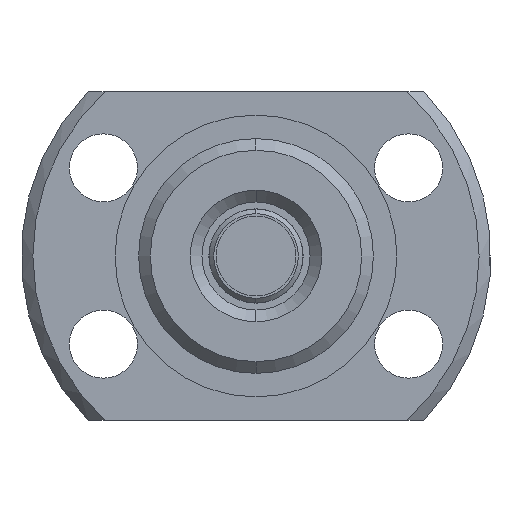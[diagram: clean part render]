
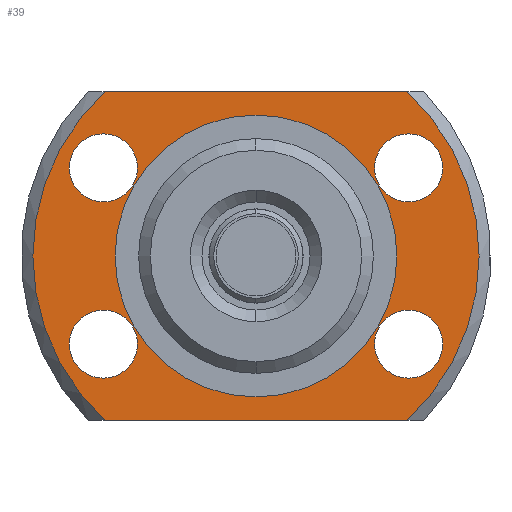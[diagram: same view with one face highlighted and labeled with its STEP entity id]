
A CAD part, left-side view. The second image highlights one B-rep face of the part: STEP entity #39.
In plain terms, the highlighted planar face has unit normal (-1, 0, 0).
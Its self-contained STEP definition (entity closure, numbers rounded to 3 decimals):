
#39 = ADVANCED_FACE ( 'NONE', ( #422, #423, #435, #433, #420, #424 ), #606, .T. ) ;
#75 = DIRECTION ( 'NONE',  ( 0., 0., -1. ) ) ;
#76 = DIRECTION ( 'NONE',  ( 1., 0., 0. ) ) ;
#78 = CARTESIAN_POINT ( 'NONE',  ( -3., 0., 0. ) ) ;
#114 = DIRECTION ( 'NONE',  ( 0., 0., 1. ) ) ;
#115 = DIRECTION ( 'NONE',  ( -1., 0., 0. ) ) ;
#116 = CARTESIAN_POINT ( 'NONE',  ( -3., 6.495, -3.75 ) ) ;
#126 = DIRECTION ( 'NONE',  ( 0., 0., 1. ) ) ;
#128 = DIRECTION ( 'NONE',  ( -1., 0., 0. ) ) ;
#129 = CARTESIAN_POINT ( 'NONE',  ( -3., 6.495, 3.75 ) ) ;
#142 = DIRECTION ( 'NONE',  ( 0., 0., 1. ) ) ;
#143 = DIRECTION ( 'NONE',  ( -1., 0., 0. ) ) ;
#144 = CARTESIAN_POINT ( 'NONE',  ( -3., -6.495, 3.75 ) ) ;
#153 = DIRECTION ( 'NONE',  ( 0., 0., 1. ) ) ;
#154 = DIRECTION ( 'NONE',  ( -1., 0., 0. ) ) ;
#155 = CARTESIAN_POINT ( 'NONE',  ( -3., -6.495, -3.75 ) ) ;
#240 = VERTEX_POINT ( 'NONE', #554 ) ;
#249 = VERTEX_POINT ( 'NONE', #546 ) ;
#252 = VERTEX_POINT ( 'NONE', #542 ) ;
#266 = VERTEX_POINT ( 'NONE', #525 ) ;
#267 = VERTEX_POINT ( 'NONE', #524 ) ;
#276 = VERTEX_POINT ( 'NONE', #514 ) ;
#287 = VERTEX_POINT ( 'NONE', #506 ) ;
#288 = VERTEX_POINT ( 'NONE', #510 ) ;
#289 = VERTEX_POINT ( 'NONE', #505 ) ;
#301 = VERTEX_POINT ( 'NONE', #1062 ) ;
#302 = VERTEX_POINT ( 'NONE', #509 ) ;
#328 = VECTOR ( 'NONE', #1902, 1000. ) ;
#330 = VECTOR ( 'NONE', #1710, 1000. ) ;
#331 = LINE ( 'NONE', #1712, #330 ) ;
#332 = CIRCLE ( 'NONE', #1236, 6. ) ;
#333 = CIRCLE ( 'NONE', #1237, 1.45 ) ;
#334 = CIRCLE ( 'NONE', #1238, 1.45 ) ;
#335 = CIRCLE ( 'NONE', #1239, 1.45 ) ;
#336 = CIRCLE ( 'NONE', #1241, 9.5 ) ;
#337 = CIRCLE ( 'NONE', #1240, 1.45 ) ;
#339 = LINE ( 'NONE', #1708, #328 ) ;
#342 = CIRCLE ( 'NONE', #1242, 9.5 ) ;
#420 = FACE_BOUND ( 'NONE', #1388, .T. ) ;
#422 = FACE_BOUND ( 'NONE', #1392, .T. ) ;
#423 = FACE_BOUND ( 'NONE', #1398, .T. ) ;
#424 = FACE_OUTER_BOUND ( 'NONE', #1410, .T. ) ;
#433 = FACE_BOUND ( 'NONE', #1419, .T. ) ;
#435 = FACE_BOUND ( 'NONE', #1414, .T. ) ;
#486 = VERTEX_POINT ( 'NONE', #1081 ) ;
#490 = VERTEX_POINT ( 'NONE', #1083 ) ;
#498 = VERTEX_POINT ( 'NONE', #1092 ) ;
#505 = CARTESIAN_POINT ( 'NONE',  ( -3., -6.495, 2.3 ) ) ;
#506 = CARTESIAN_POINT ( 'NONE',  ( -3., 6.495, 5.2 ) ) ;
#509 = CARTESIAN_POINT ( 'NONE',  ( -3., 6.495, -5.2 ) ) ;
#510 = CARTESIAN_POINT ( 'NONE',  ( -3., 6.495, 2.3 ) ) ;
#514 = CARTESIAN_POINT ( 'NONE',  ( -3., -6.495, -5.2 ) ) ;
#524 = CARTESIAN_POINT ( 'NONE',  ( -3., 6.495, -2.3 ) ) ;
#525 = CARTESIAN_POINT ( 'NONE',  ( -3., -6.495, -2.3 ) ) ;
#542 = CARTESIAN_POINT ( 'NONE',  ( -3., 0., 6. ) ) ;
#546 = CARTESIAN_POINT ( 'NONE',  ( -3., 0., -6. ) ) ;
#554 = CARTESIAN_POINT ( 'NONE',  ( -3., 6.423, 7. ) ) ;
#567 = DIRECTION ( 'NONE',  ( 0., 0., 1. ) ) ;
#571 = CARTESIAN_POINT ( 'NONE',  ( -3., 9.5, 0. ) ) ;
#590 = DIRECTION ( 'NONE',  ( -1., 0., 0. ) ) ;
#606 = PLANE ( 'NONE',  #1940 ) ;
#798 = CIRCLE ( 'NONE', #1261, 6. ) ;
#820 = CIRCLE ( 'NONE', #1267, 1.45 ) ;
#826 = CIRCLE ( 'NONE', #1269, 1.45 ) ;
#832 = CIRCLE ( 'NONE', #1271, 1.45 ) ;
#836 = CIRCLE ( 'NONE', #1273, 1.45 ) ;
#1062 = CARTESIAN_POINT ( 'NONE',  ( -3., -6.495, 5.2 ) ) ;
#1081 = CARTESIAN_POINT ( 'NONE',  ( -3., 6.423, -7. ) ) ;
#1083 = CARTESIAN_POINT ( 'NONE',  ( -3., -6.423, 7. ) ) ;
#1092 = CARTESIAN_POINT ( 'NONE',  ( -3., -6.423, -7. ) ) ;
#1236 = AXIS2_PLACEMENT_3D ( 'NONE', #1707, #1706, #1705 ) ;
#1237 = AXIS2_PLACEMENT_3D ( 'NONE', #1711, #1709, #1713 ) ;
#1238 = AXIS2_PLACEMENT_3D ( 'NONE', #1716, #1715, #1714 ) ;
#1239 = AXIS2_PLACEMENT_3D ( 'NONE', #1719, #1718, #1717 ) ;
#1240 = AXIS2_PLACEMENT_3D ( 'NONE', #1722, #1721, #1720 ) ;
#1241 = AXIS2_PLACEMENT_3D ( 'NONE', #1730, #1729, #1728 ) ;
#1242 = AXIS2_PLACEMENT_3D ( 'NONE', #1737, #1736, #1735 ) ;
#1261 = AXIS2_PLACEMENT_3D ( 'NONE', #78, #76, #75 ) ;
#1267 = AXIS2_PLACEMENT_3D ( 'NONE', #116, #115, #114 ) ;
#1269 = AXIS2_PLACEMENT_3D ( 'NONE', #129, #128, #126 ) ;
#1271 = AXIS2_PLACEMENT_3D ( 'NONE', #144, #143, #142 ) ;
#1273 = AXIS2_PLACEMENT_3D ( 'NONE', #155, #154, #153 ) ;
#1388 = EDGE_LOOP ( 'NONE', ( #1566, #1565 ) ) ;
#1392 = EDGE_LOOP ( 'NONE', ( #1574, #1573 ) ) ;
#1398 = EDGE_LOOP ( 'NONE', ( #1572, #1571 ) ) ;
#1410 = EDGE_LOOP ( 'NONE', ( #1564, #1563, #1562, #1561 ) ) ;
#1414 = EDGE_LOOP ( 'NONE', ( #1570, #1569 ) ) ;
#1419 = EDGE_LOOP ( 'NONE', ( #1568, #1567 ) ) ;
#1561 = ORIENTED_EDGE ( 'NONE', *, *, #2121, .T. ) ;
#1562 = ORIENTED_EDGE ( 'NONE', *, *, #2112, .F. ) ;
#1563 = ORIENTED_EDGE ( 'NONE', *, *, #2120, .T. ) ;
#1564 = ORIENTED_EDGE ( 'NONE', *, *, #2110, .F. ) ;
#1565 = ORIENTED_EDGE ( 'NONE', *, *, #2069, .T. ) ;
#1566 = ORIENTED_EDGE ( 'NONE', *, *, #2119, .T. ) ;
#1567 = ORIENTED_EDGE ( 'NONE', *, *, #2118, .F. ) ;
#1568 = ORIENTED_EDGE ( 'NONE', *, *, #2057, .F. ) ;
#1569 = ORIENTED_EDGE ( 'NONE', *, *, #2117, .F. ) ;
#1570 = ORIENTED_EDGE ( 'NONE', *, *, #2053, .F. ) ;
#1571 = ORIENTED_EDGE ( 'NONE', *, *, #2116, .F. ) ;
#1572 = ORIENTED_EDGE ( 'NONE', *, *, #2049, .F. ) ;
#1573 = ORIENTED_EDGE ( 'NONE', *, *, #2115, .F. ) ;
#1574 = ORIENTED_EDGE ( 'NONE', *, *, #2046, .F. ) ;
#1705 = DIRECTION ( 'NONE',  ( 0., 0., -1. ) ) ;
#1706 = DIRECTION ( 'NONE',  ( 1., 0., 0. ) ) ;
#1707 = CARTESIAN_POINT ( 'NONE',  ( -3., 0., 0. ) ) ;
#1708 = CARTESIAN_POINT ( 'NONE',  ( -3., 9.5, -7. ) ) ;
#1709 = DIRECTION ( 'NONE',  ( -1., 0., 0. ) ) ;
#1710 = DIRECTION ( 'NONE',  ( 0., 1., 0. ) ) ;
#1711 = CARTESIAN_POINT ( 'NONE',  ( -3., 6.495, -3.75 ) ) ;
#1712 = CARTESIAN_POINT ( 'NONE',  ( -3., 9.5, 7. ) ) ;
#1713 = DIRECTION ( 'NONE',  ( 0., 0., 1. ) ) ;
#1714 = DIRECTION ( 'NONE',  ( 0., 0., 1. ) ) ;
#1715 = DIRECTION ( 'NONE',  ( -1., 0., 0. ) ) ;
#1716 = CARTESIAN_POINT ( 'NONE',  ( -3., 6.495, 3.75 ) ) ;
#1717 = DIRECTION ( 'NONE',  ( 0., 0., 1. ) ) ;
#1718 = DIRECTION ( 'NONE',  ( -1., 0., 0. ) ) ;
#1719 = CARTESIAN_POINT ( 'NONE',  ( -3., -6.495, 3.75 ) ) ;
#1720 = DIRECTION ( 'NONE',  ( 0., 0., 1. ) ) ;
#1721 = DIRECTION ( 'NONE',  ( -1., 0., 0. ) ) ;
#1722 = CARTESIAN_POINT ( 'NONE',  ( -3., -6.495, -3.75 ) ) ;
#1728 = DIRECTION ( 'NONE',  ( 0., 0., -1. ) ) ;
#1729 = DIRECTION ( 'NONE',  ( 1., 0., 0. ) ) ;
#1730 = CARTESIAN_POINT ( 'NONE',  ( -3., 0., 0. ) ) ;
#1735 = DIRECTION ( 'NONE',  ( 0., 0., -1. ) ) ;
#1736 = DIRECTION ( 'NONE',  ( 1., 0., 0. ) ) ;
#1737 = CARTESIAN_POINT ( 'NONE',  ( -3., 0., 0. ) ) ;
#1902 = DIRECTION ( 'NONE',  ( 0., -1., 0. ) ) ;
#1940 = AXIS2_PLACEMENT_3D ( 'NONE', #571, #590, #567 ) ;
#2046 = EDGE_CURVE ( 'NONE', #276, #266, #836, .T. ) ;
#2049 = EDGE_CURVE ( 'NONE', #289, #301, #832, .T. ) ;
#2053 = EDGE_CURVE ( 'NONE', #288, #287, #826, .T. ) ;
#2057 = EDGE_CURVE ( 'NONE', #302, #267, #820, .T. ) ;
#2069 = EDGE_CURVE ( 'NONE', #252, #249, #798, .T. ) ;
#2110 = EDGE_CURVE ( 'NONE', #490, #498, #342, .T. ) ;
#2112 = EDGE_CURVE ( 'NONE', #486, #240, #336, .T. ) ;
#2115 = EDGE_CURVE ( 'NONE', #266, #276, #337, .T. ) ;
#2116 = EDGE_CURVE ( 'NONE', #301, #289, #335, .T. ) ;
#2117 = EDGE_CURVE ( 'NONE', #287, #288, #334, .T. ) ;
#2118 = EDGE_CURVE ( 'NONE', #267, #302, #333, .T. ) ;
#2119 = EDGE_CURVE ( 'NONE', #249, #252, #332, .T. ) ;
#2120 = EDGE_CURVE ( 'NONE', #490, #240, #331, .T. ) ;
#2121 = EDGE_CURVE ( 'NONE', #486, #498, #339, .T. ) ;
